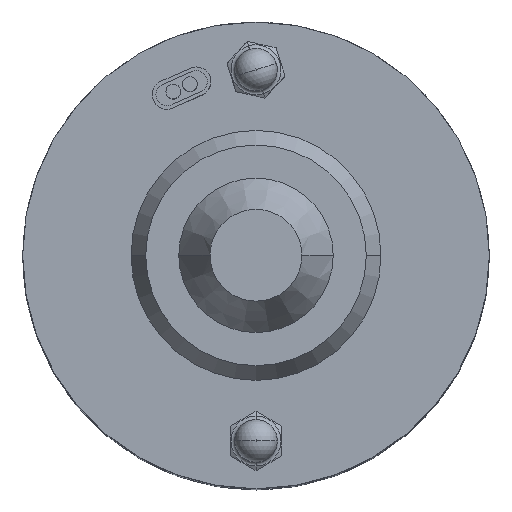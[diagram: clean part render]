
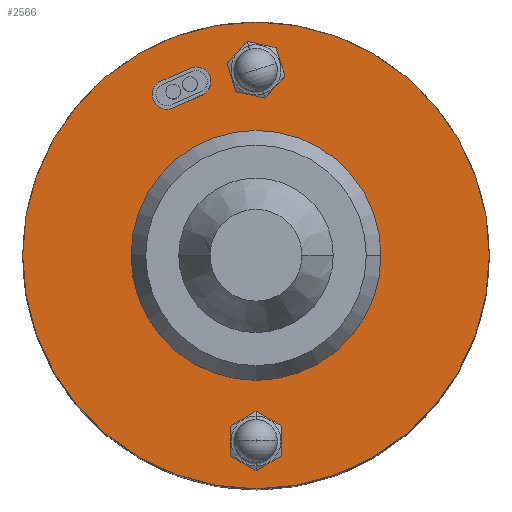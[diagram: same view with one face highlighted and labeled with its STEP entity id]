
A CAD part, top view. The second image highlights one B-rep face of the part: STEP entity #2566.
In plain terms, the highlighted planar face has unit normal (0, 0, 1).
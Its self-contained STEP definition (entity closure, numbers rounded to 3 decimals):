
#26 = CARTESIAN_POINT ( 'NONE',  ( 0., -25.25, 88.5 ) ) ;
#28 = VERTEX_POINT ( 'NONE', #105 ) ;
#36 = ORIENTED_EDGE ( 'NONE', *, *, #1976, .T. ) ;
#70 = CARTESIAN_POINT ( 'NONE',  ( -32.131, -32.131, 88.5 ) ) ;
#85 = VECTOR ( 'NONE', #2372, 1000. ) ;
#105 = CARTESIAN_POINT ( 'NONE',  ( -11.171, 20.105, 88.5 ) ) ;
#116 = VERTEX_POINT ( 'NONE', #4198 ) ;
#180 = DIRECTION ( 'NONE',  ( -1., 0., 0. ) ) ;
#215 = AXIS2_PLACEMENT_3D ( 'NONE', #1134, #4364, #1602 ) ;
#254 = AXIS2_PLACEMENT_3D ( 'NONE', #5869, #3053, #180 ) ;
#345 = ORIENTED_EDGE ( 'NONE', *, *, #5791, .T. ) ;
#394 = DIRECTION ( 'NONE',  ( -1., 0., 0. ) ) ;
#545 = DIRECTION ( 'NONE',  ( -1., 0., 0. ) ) ;
#576 = DIRECTION ( 'NONE',  ( 1., 0., 0. ) ) ;
#582 = EDGE_LOOP ( 'NONE', ( #1659, #3543, #345, #4925, #36 ) ) ;
#690 = CARTESIAN_POINT ( 'NONE',  ( 17., 0., 88.5 ) ) ;
#723 = EDGE_LOOP ( 'NONE', ( #1738, #3254 ) ) ;
#885 = EDGE_LOOP ( 'NONE', ( #3057, #3413 ) ) ;
#1072 = ORIENTED_EDGE ( 'NONE', *, *, #3816, .T. ) ;
#1116 = FACE_BOUND ( 'NONE', #582, .T. ) ;
#1123 = EDGE_CURVE ( 'NONE', #3902, #5568, #4921, .T. ) ;
#1134 = CARTESIAN_POINT ( 'NONE',  ( 0., 0., 88.5 ) ) ;
#1222 = AXIS2_PLACEMENT_3D ( 'NONE', #2110, #5375, #2575 ) ;
#1225 = DIRECTION ( 'NONE',  ( 0., 0., -1. ) ) ;
#1260 = AXIS2_PLACEMENT_3D ( 'NONE', #4227, #1463, #4702 ) ;
#1292 = VERTEX_POINT ( 'NONE', #1795 ) ;
#1296 = AXIS2_PLACEMENT_3D ( 'NONE', #70, #3420, #576 ) ;
#1399 = FACE_BOUND ( 'NONE', #5810, .T. ) ;
#1407 = DIRECTION ( 'NONE',  ( -0.914, -0.407, 0. ) ) ;
#1463 = DIRECTION ( 'NONE',  ( 0., 0., -1. ) ) ;
#1575 = CARTESIAN_POINT ( 'NONE',  ( 0., -25.25, 88.5 ) ) ;
#1602 = DIRECTION ( 'NONE',  ( -1., 0., 0. ) ) ;
#1620 = AXIS2_PLACEMENT_3D ( 'NONE', #1575, #4828, #2065 ) ;
#1631 = CIRCLE ( 'NONE', #1222, 31.75 ) ;
#1642 = ORIENTED_EDGE ( 'NONE', *, *, #2190, .T. ) ;
#1659 = ORIENTED_EDGE ( 'NONE', *, *, #2521, .T. ) ;
#1738 = ORIENTED_EDGE ( 'NONE', *, *, #3685, .T. ) ;
#1795 = CARTESIAN_POINT ( 'NONE',  ( 2., -25.25, 88.5 ) ) ;
#1976 = EDGE_CURVE ( 'NONE', #4853, #116, #5069, .T. ) ;
#2062 = LINE ( 'NONE', #4178, #3122 ) ;
#2065 = DIRECTION ( 'NONE',  ( -1., 0., 0. ) ) ;
#2096 = EDGE_CURVE ( 'NONE', #5344, #2512, #3020, .T. ) ;
#2110 = CARTESIAN_POINT ( 'NONE',  ( 0., 0., 88.5 ) ) ;
#2141 = CIRCLE ( 'NONE', #3885, 2. ) ;
#2154 = EDGE_CURVE ( 'NONE', #3723, #3177, #2875, .T. ) ;
#2190 = EDGE_CURVE ( 'NONE', #3177, #3723, #1631, .T. ) ;
#2191 = CARTESIAN_POINT ( 'NONE',  ( -17., 0., 88.5 ) ) ;
#2259 = ORIENTED_EDGE ( 'NONE', *, *, #2789, .T. ) ;
#2372 = DIRECTION ( 'NONE',  ( 0.914, 0.407, 0. ) ) ;
#2386 = PLANE ( 'NONE',  #1296 ) ;
#2490 = CARTESIAN_POINT ( 'NONE',  ( -8.812, 25.521, 88.5 ) ) ;
#2512 = VERTEX_POINT ( 'NONE', #2819 ) ;
#2521 = EDGE_CURVE ( 'NONE', #116, #5344, #4970, .T. ) ;
#2566 = ADVANCED_FACE ( 'NONE', ( #1116, #5945, #1399, #4664, #3449 ), #2386, .T. ) ;
#2575 = DIRECTION ( 'NONE',  ( -1., 0., 0. ) ) ;
#2596 = VERTEX_POINT ( 'NONE', #4805 ) ;
#2605 = EDGE_CURVE ( 'NONE', #1292, #5415, #2871, .T. ) ;
#2648 = CIRCLE ( 'NONE', #1260, 17. ) ;
#2789 = EDGE_CURVE ( 'NONE', #6116, #2596, #5874, .T. ) ;
#2819 = CARTESIAN_POINT ( 'NONE',  ( -7.19, 21.878, 88.5 ) ) ;
#2835 = CARTESIAN_POINT ( 'NONE',  ( -12.12, 21.865, 88.5 ) ) ;
#2871 = CIRCLE ( 'NONE', #1620, 2. ) ;
#2875 = CIRCLE ( 'NONE', #215, 31.75 ) ;
#2919 = CIRCLE ( 'NONE', #254, 2. ) ;
#3020 = CIRCLE ( 'NONE', #5744, 2. ) ;
#3053 = DIRECTION ( 'NONE',  ( 0., 0., -1. ) ) ;
#3057 = ORIENTED_EDGE ( 'NONE', *, *, #1123, .T. ) ;
#3122 = VECTOR ( 'NONE', #1407, 1000. ) ;
#3156 = DIRECTION ( 'NONE',  ( -1., 0., 0. ) ) ;
#3177 = VERTEX_POINT ( 'NONE', #4551 ) ;
#3241 = EDGE_CURVE ( 'NONE', #28, #4853, #2141, .T. ) ;
#3252 = DIRECTION ( 'NONE',  ( 0., 0., -1. ) ) ;
#3254 = ORIENTED_EDGE ( 'NONE', *, *, #2605, .T. ) ;
#3274 = CIRCLE ( 'NONE', #5275, 2. ) ;
#3307 = EDGE_CURVE ( 'NONE', #5568, #3902, #2648, .T. ) ;
#3386 = DIRECTION ( 'NONE',  ( 0., 0., -1. ) ) ;
#3413 = ORIENTED_EDGE ( 'NONE', *, *, #3307, .T. ) ;
#3420 = DIRECTION ( 'NONE',  ( 0., 0., 1. ) ) ;
#3428 = CARTESIAN_POINT ( 'NONE',  ( 31.75, 0., 88.5 ) ) ;
#3449 = FACE_OUTER_BOUND ( 'NONE', #4152, .T. ) ;
#3543 = ORIENTED_EDGE ( 'NONE', *, *, #2096, .T. ) ;
#3685 = EDGE_CURVE ( 'NONE', #5415, #1292, #3274, .T. ) ;
#3715 = AXIS2_PLACEMENT_3D ( 'NONE', #4661, #4679, #5094 ) ;
#3723 = VERTEX_POINT ( 'NONE', #3428 ) ;
#3816 = EDGE_CURVE ( 'NONE', #2596, #6116, #2919, .T. ) ;
#3885 = AXIS2_PLACEMENT_3D ( 'NONE', #6067, #3252, #394 ) ;
#3902 = VERTEX_POINT ( 'NONE', #2191 ) ;
#4019 = CARTESIAN_POINT ( 'NONE',  ( 0., 25.25, 88.5 ) ) ;
#4097 = DIRECTION ( 'NONE',  ( 0., 0., -1. ) ) ;
#4152 = EDGE_LOOP ( 'NONE', ( #1642, #5761 ) ) ;
#4178 = CARTESIAN_POINT ( 'NONE',  ( -7.19, 21.878, 88.5 ) ) ;
#4198 = CARTESIAN_POINT ( 'NONE',  ( -13.069, 23.626, 88.5 ) ) ;
#4227 = CARTESIAN_POINT ( 'NONE',  ( 0., 0., 88.5 ) ) ;
#4243 = DIRECTION ( 'NONE',  ( 0., 0., -1. ) ) ;
#4364 = DIRECTION ( 'NONE',  ( 0., 0., 1. ) ) ;
#4456 = DIRECTION ( 'NONE',  ( -1., 0., 0. ) ) ;
#4551 = CARTESIAN_POINT ( 'NONE',  ( -31.75, 0., 88.5 ) ) ;
#4661 = CARTESIAN_POINT ( 'NONE',  ( 0., 0., 88.5 ) ) ;
#4664 = FACE_BOUND ( 'NONE', #885, .T. ) ;
#4675 = DIRECTION ( 'NONE',  ( -1., 0., 0. ) ) ;
#4679 = DIRECTION ( 'NONE',  ( 0., 0., -1. ) ) ;
#4702 = DIRECTION ( 'NONE',  ( -1., 0., 0. ) ) ;
#4722 = AXIS2_PLACEMENT_3D ( 'NONE', #4019, #1225, #4456 ) ;
#4805 = CARTESIAN_POINT ( 'NONE',  ( -2., 25.25, 88.5 ) ) ;
#4828 = DIRECTION ( 'NONE',  ( 0., 0., -1. ) ) ;
#4840 = CARTESIAN_POINT ( 'NONE',  ( -14.12, 21.865, 88.5 ) ) ;
#4853 = VERTEX_POINT ( 'NONE', #4840 ) ;
#4921 = CIRCLE ( 'NONE', #3715, 17. ) ;
#4925 = ORIENTED_EDGE ( 'NONE', *, *, #3241, .T. ) ;
#4970 = LINE ( 'NONE', #5147, #85 ) ;
#5069 = CIRCLE ( 'NONE', #5854, 2. ) ;
#5094 = DIRECTION ( 'NONE',  ( -1., 0., 0. ) ) ;
#5147 = CARTESIAN_POINT ( 'NONE',  ( -10.941, 24.574, 88.5 ) ) ;
#5151 = CARTESIAN_POINT ( 'NONE',  ( 2., 25.25, 88.5 ) ) ;
#5275 = AXIS2_PLACEMENT_3D ( 'NONE', #26, #3386, #545 ) ;
#5344 = VERTEX_POINT ( 'NONE', #2490 ) ;
#5375 = DIRECTION ( 'NONE',  ( 0., 0., 1. ) ) ;
#5415 = VERTEX_POINT ( 'NONE', #5743 ) ;
#5568 = VERTEX_POINT ( 'NONE', #690 ) ;
#5743 = CARTESIAN_POINT ( 'NONE',  ( -2., -25.25, 88.5 ) ) ;
#5744 = AXIS2_PLACEMENT_3D ( 'NONE', #5957, #4243, #4675 ) ;
#5761 = ORIENTED_EDGE ( 'NONE', *, *, #2154, .T. ) ;
#5791 = EDGE_CURVE ( 'NONE', #2512, #28, #2062, .T. ) ;
#5810 = EDGE_LOOP ( 'NONE', ( #1072, #2259 ) ) ;
#5854 = AXIS2_PLACEMENT_3D ( 'NONE', #2835, #4097, #3156 ) ;
#5869 = CARTESIAN_POINT ( 'NONE',  ( 0., 25.25, 88.5 ) ) ;
#5874 = CIRCLE ( 'NONE', #4722, 2. ) ;
#5945 = FACE_BOUND ( 'NONE', #723, .T. ) ;
#5957 = CARTESIAN_POINT ( 'NONE',  ( -8.139, 23.638, 88.5 ) ) ;
#6067 = CARTESIAN_POINT ( 'NONE',  ( -12.12, 21.865, 88.5 ) ) ;
#6116 = VERTEX_POINT ( 'NONE', #5151 ) ;
